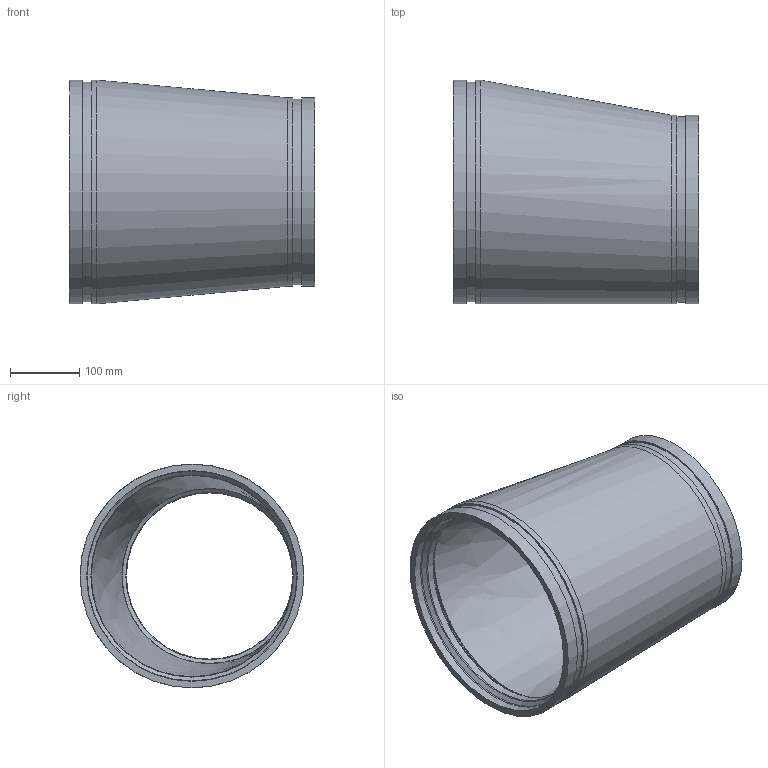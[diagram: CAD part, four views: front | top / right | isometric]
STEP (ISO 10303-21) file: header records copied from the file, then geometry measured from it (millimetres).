
FILE_DESCRIPTION(/* description */ ('VIC REDUCER ECCENTRIC No 451H-SS','CAx-IF Rec.Pracs.---Representation and Presentation of Product Manufacturing Information (PMI)---4.0---2014-10-13'),/* implementation_level */ '2;1');
FILE_NAME(/* name */ 'C:\Users\kkamble\AppData\Roaming\Autodesk\ApplicationPlugins\Back Up\Victaulic_SS-OGS_Reducer Eccentric_Sched 40S_No 451H SS (OGS)\Victaulic_SS-OGS_Reducer Eccentric_Sched 40S_No 451H SS (OGS)_12.0x10.0 (300x250).stp',/* time_stamp */ '2020-08-25T18:06:20+06:00',/* author */ ('CORINNE GRAY'),/* organization */ ('Victaulic'),/* preprocessor_version */ 'ST-DEVELOPER v17.2',/* originating_system */ 'Autodesk Inventor 2019',/* authorisation */ '');
FILE_SCHEMA (('AP242_MANAGED_MODEL_BASED_3D_ENGINEERING_MIM_LF { 1 0 10303 442 1 1 4 }'));
Length unit declared in the file: inch
Products named in the file (1): 451H SS-12.0x10.0
Bounding box: 355.6 x 323.85 x 323.85 mm (x, y, z)
Volume: 3198254.3 mm3; surface area: 683045.6 mm2
Topology: 1 solids, 1 shells, 32 faces, 111 edges, 85 vertices
Faces by surface type: cylinder 12, torus 8, plane 6, cone 4, bspline 2
Full cylindrical faces by diameter (mm): 240.741 x1, 254.508 x2, 268.275 x1, 273.05 x2, 291.313 x1, 304.8 x2, 318.287 x1, 323.85 x2
Entity records: 1504 total; most frequent: DIRECTION 290, CARTESIAN_POINT 282, ORIENTED_EDGE 222, AXIS2_PLACEMENT_3D 137, EDGE_CURVE 111, CIRCLE 93, VERTEX_POINT 85, EDGE_LOOP 38
